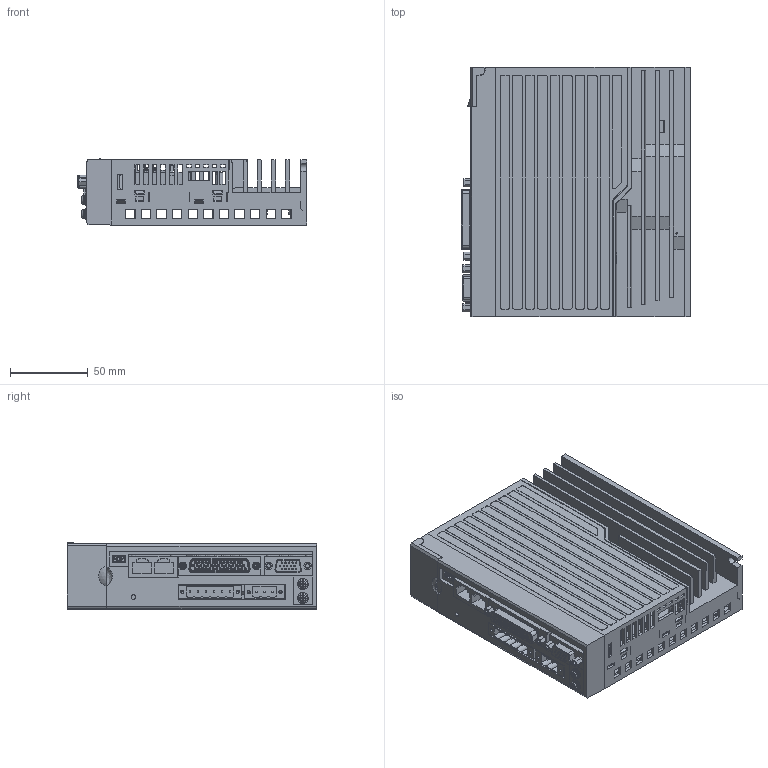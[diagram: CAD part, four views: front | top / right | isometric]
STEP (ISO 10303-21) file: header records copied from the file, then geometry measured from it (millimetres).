
FILE_DESCRIPTION((''),'2;1');
FILE_NAME('DA180_400W__SW0001','2020-06-20T',('DELL'),(''),'PRO/ENGINEER BY PARAMETRIC TECHNOLOGY CORPORATION, 2010280','PRO/ENGINEER BY PARAMETRIC TECHNOLOGY CORPORATION, 2010280','');
FILE_SCHEMA(('AUTOMOTIVE_DESIGN { 1 2 10303 214 0 1 1 1 }'));
Products named in the file (1): DA180_400W__SW0001
Bounding box: 146.95 x 160.14 x 42.36 mm (x, y, z)
Surface area: 190900.5 mm2 (no closed solid volume)
Topology: 0 solids, 8 shells, 2729 faces, 7182 edges, 4649 vertices
Faces by surface type: plane 1766, cylinder 710, cone 201, torus 36, sphere 10, bspline 4, extrusion 2
Entity records: 103184 total; most frequent: CARTESIAN_POINT 17960, ORIENTED_EDGE 14292, DIRECTION 13852, EDGE_CURVE 7146, VECTOR 4964, LINE 4962, VERTEX_POINT 4649, AXIS2_PLACEMENT_3D 4444
